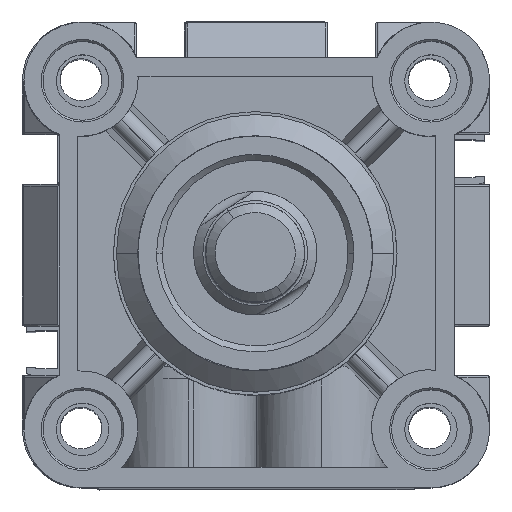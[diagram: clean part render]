
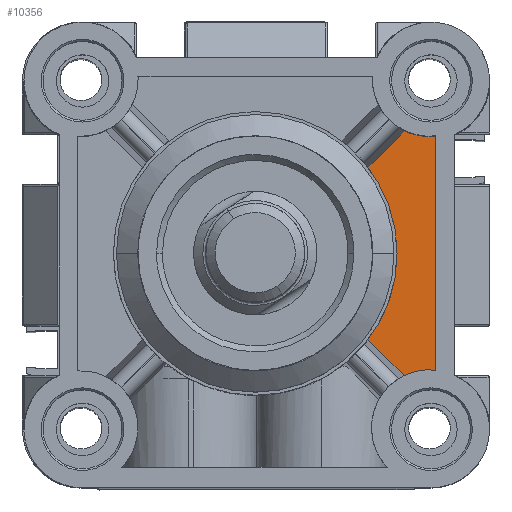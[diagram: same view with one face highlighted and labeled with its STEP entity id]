
A CAD part, top view. The second image highlights one B-rep face of the part: STEP entity #10356.
In plain terms, the highlighted planar face has unit normal (0, 0, 1) as drawn and (0, 0, -1) by its records, which use the part's own axes.
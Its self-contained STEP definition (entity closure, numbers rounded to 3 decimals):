
#1046 = CARTESIAN_POINT ( 'NONE',  ( 13.975, 18.285, 33. ) ) ;
#1249 = CIRCLE ( 'NONE', #15015, 9.386 ) ;
#1295 = EDGE_LOOP ( 'NONE', ( #21218, #5437, #20277, #6464, #10389, #13682, #2233 ) ) ;
#1355 = DIRECTION ( 'NONE',  ( 0., 0., 1. ) ) ;
#1544 = VECTOR ( 'NONE', #7875, 1000. ) ;
#1627 = CARTESIAN_POINT ( 'NONE',  ( 13.975, 46.215, 33. ) ) ;
#1631 = DIRECTION ( 'NONE',  ( -1., 0., 0. ) ) ;
#1669 = VERTEX_POINT ( 'NONE', #15219 ) ;
#2233 = ORIENTED_EDGE ( 'NONE', *, *, #8292, .T. ) ;
#2718 = VECTOR ( 'NONE', #14734, 1000. ) ;
#3231 = CARTESIAN_POINT ( 'NONE',  ( 8.021, 52.169, 33. ) ) ;
#3542 = DIRECTION ( 'NONE',  ( 0., 0., 1. ) ) ;
#3719 = AXIS2_PLACEMENT_3D ( 'NONE', #11225, #1355, #12865 ) ;
#3871 = VERTEX_POINT ( 'NONE', #11167 ) ;
#5260 = VECTOR ( 'NONE', #15875, 1000. ) ;
#5437 = ORIENTED_EDGE ( 'NONE', *, *, #9957, .T. ) ;
#5459 = VERTEX_POINT ( 'NONE', #1627 ) ;
#5772 = CARTESIAN_POINT ( 'NONE',  ( 32.25, 32.25, 33. ) ) ;
#6353 = CIRCLE ( 'NONE', #3719, 23. ) ;
#6464 = ORIENTED_EDGE ( 'NONE', *, *, #15063, .T. ) ;
#7381 = EDGE_CURVE ( 'NONE', #1669, #13207, #19578, .T. ) ;
#7428 = DIRECTION ( 'NONE',  ( -1., 0., 0. ) ) ;
#7862 = DIRECTION ( 'NONE',  ( 0., 0., -1. ) ) ;
#7875 = DIRECTION ( 'NONE',  ( 0., 1., 0. ) ) ;
#8143 = AXIS2_PLACEMENT_3D ( 'NONE', #21374, #11514, #1631 ) ;
#8156 = CARTESIAN_POINT ( 'NONE',  ( 13.975, 18.285, 33. ) ) ;
#8292 = EDGE_CURVE ( 'NONE', #10291, #1669, #1249, .T. ) ;
#9648 = AXIS2_PLACEMENT_3D ( 'NONE', #5772, #17278, #7428 ) ;
#9655 = LINE ( 'NONE', #1046, #5260 ) ;
#9818 = EDGE_CURVE ( 'NONE', #3871, #16799, #6353, .T. ) ;
#9957 = EDGE_CURVE ( 'NONE', #13207, #19503, #17404, .T. ) ;
#10291 = VERTEX_POINT ( 'NONE', #15786 ) ;
#10356 = ADVANCED_FACE ( 'NONE', ( #15064 ), #14419, .T. ) ;
#10389 = ORIENTED_EDGE ( 'NONE', *, *, #9818, .T. ) ;
#11167 = CARTESIAN_POINT ( 'NONE',  ( 9.25, 32.25, 33. ) ) ;
#11225 = CARTESIAN_POINT ( 'NONE',  ( 32.25, 32.25, 33. ) ) ;
#11376 = CARTESIAN_POINT ( 'NONE',  ( 8.021, 52.169, 33. ) ) ;
#11514 = DIRECTION ( 'NONE',  ( 0., 0., 1. ) ) ;
#12709 = CIRCLE ( 'NONE', #9648, 23. ) ;
#12865 = DIRECTION ( 'NONE',  ( -1., 0., 0. ) ) ;
#13207 = VERTEX_POINT ( 'NONE', #16483 ) ;
#13403 = CARTESIAN_POINT ( 'NONE',  ( 4., 4., 33. ) ) ;
#13591 = EDGE_CURVE ( 'NONE', #19503, #5459, #15321, .T. ) ;
#13682 = ORIENTED_EDGE ( 'NONE', *, *, #13975, .T. ) ;
#13975 = EDGE_CURVE ( 'NONE', #16799, #10291, #9655, .T. ) ;
#14419 = PLANE ( 'NONE',  #21004 ) ;
#14734 = DIRECTION ( 'NONE',  ( 0.707, -0.707, 0. ) ) ;
#15015 = AXIS2_PLACEMENT_3D ( 'NONE', #13403, #3542, #15053 ) ;
#15053 = DIRECTION ( 'NONE',  ( -1., 0., 0. ) ) ;
#15063 = EDGE_CURVE ( 'NONE', #5459, #3871, #12709, .T. ) ;
#15064 = FACE_OUTER_BOUND ( 'NONE', #1295, .T. ) ;
#15219 = CARTESIAN_POINT ( 'NONE',  ( 3., 13.333, 33. ) ) ;
#15321 = LINE ( 'NONE', #3231, #2718 ) ;
#15786 = CARTESIAN_POINT ( 'NONE',  ( 8.123, 12.433, 33. ) ) ;
#15875 = DIRECTION ( 'NONE',  ( -0.707, -0.707, 0. ) ) ;
#16483 = CARTESIAN_POINT ( 'NONE',  ( 3., 51.304, 33. ) ) ;
#16799 = VERTEX_POINT ( 'NONE', #8156 ) ;
#17278 = DIRECTION ( 'NONE',  ( 0., 0., 1. ) ) ;
#17404 = CIRCLE ( 'NONE', #8143, 9.25 ) ;
#17730 = CARTESIAN_POINT ( 'NONE',  ( 14.041, 12.194, 33. ) ) ;
#19329 = CARTESIAN_POINT ( 'NONE',  ( 3., 32.319, 33. ) ) ;
#19393 = DIRECTION ( 'NONE',  ( -1., 0., 0. ) ) ;
#19503 = VERTEX_POINT ( 'NONE', #11376 ) ;
#19578 = LINE ( 'NONE', #19329, #1544 ) ;
#20277 = ORIENTED_EDGE ( 'NONE', *, *, #13591, .T. ) ;
#21004 = AXIS2_PLACEMENT_3D ( 'NONE', #17730, #7862, #19393 ) ;
#21218 = ORIENTED_EDGE ( 'NONE', *, *, #7381, .T. ) ;
#21374 = CARTESIAN_POINT ( 'NONE',  ( 4., 60.5, 33. ) ) ;
